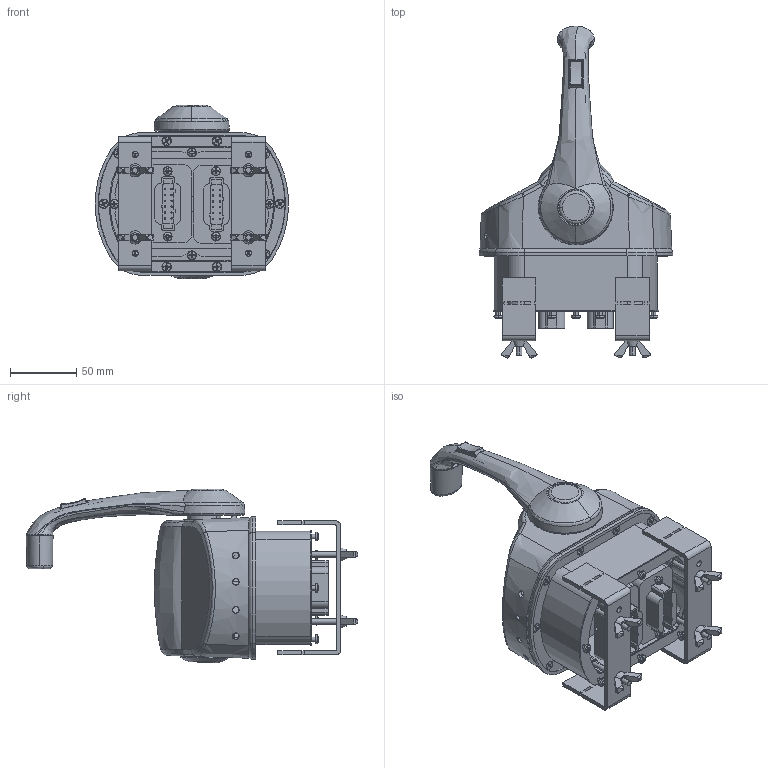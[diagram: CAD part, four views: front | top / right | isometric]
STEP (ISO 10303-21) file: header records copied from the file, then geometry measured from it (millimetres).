
FILE_DESCRIPTION((''),'2;1');
FILE_NAME('164000-41040_ASM','2020-08-19T',('ib46307'),('YANMAR CO., LTD.'),'PRO/ENGINEER BY PARAMETRIC TECHNOLOGY CORPORATION, 2017170','PRO/ENGINEER BY PARAMETRIC TECHNOLOGY CORPORATION, 2017170','');
FILE_SCHEMA(('CONFIG_CONTROL_DESIGN'));
Length unit declared in the file: inch
Products named in the file (27): 164000-41040-1-1; 164000-41040-1-2; 164000-41040-1-3; 164000-41040-1-4A; 164000-41040-1-4B; 164000-41040-1-4C; 164000-41040-1-4D; 164000-41040-1-4E; 164000-41040-1-4F; 164000-41040-1-4G; 164000-41040-1-4_ASM; 164000-41040-1-5; 164000-41040-1-6; 164000-41040-1-7; 164000-41040-1-8; 164000-41040-1-9; 164000-41040-1-10; 164000-41040-1-11; 164000-41040-1-12; 164000-41040-1-13; 164000-41040-1-15; 164000-41040-1-14; 164000-41040-1-16; 164000-41040-1_ASM; 164000-410XX-BRACKET; 26636-050002; 164000-41040_ASM
Assembly tree (56 placements, depth 4):
  164000-41040_ASM
    164000-41040-1_ASM
      164000-41040-1-1
      164000-41040-1-2
      164000-41040-1-3  x10
      164000-41040-1-4_ASM
        164000-41040-1-4A
        164000-41040-1-4B
        164000-41040-1-4C
        164000-41040-1-4D  x2
        164000-41040-1-4E
        164000-41040-1-4F
        164000-41040-1-4G
      164000-41040-1-5
      164000-41040-1-6
      164000-41040-1-7
      164000-41040-1-8  x2
      164000-41040-1-9  x12
      164000-41040-1-10
      164000-41040-1-11
      164000-41040-1-12  x4
      164000-41040-1-13
      164000-41040-1-15
      164000-41040-1-14
      164000-41040-1-16
      164000-41040-1-4B
    164000-410XX-BRACKET  x2
    26636-050002  x4
Bounding box: 146.38 x 251.22 x 131.23 mm (x, y, z)
Volume: 423227.3 mm3; surface area: 249483 mm2
Topology: 55 solids, 60 shells, 3103 faces, 7909 edges, 4984 vertices
Faces by surface type: plane 1307, cylinder 1236, bspline 237, torus 121, cone 106, sphere 94, extrusion 2
Entity records: 87372 total; most frequent: CARTESIAN_POINT 36095, ORIENTED_EDGE 10710, DIRECTION 10348, EDGE_CURVE 5361, AXIS2_PLACEMENT_3D 3732, VERTEX_POINT 3470, VECTOR 2884, LINE 2882
